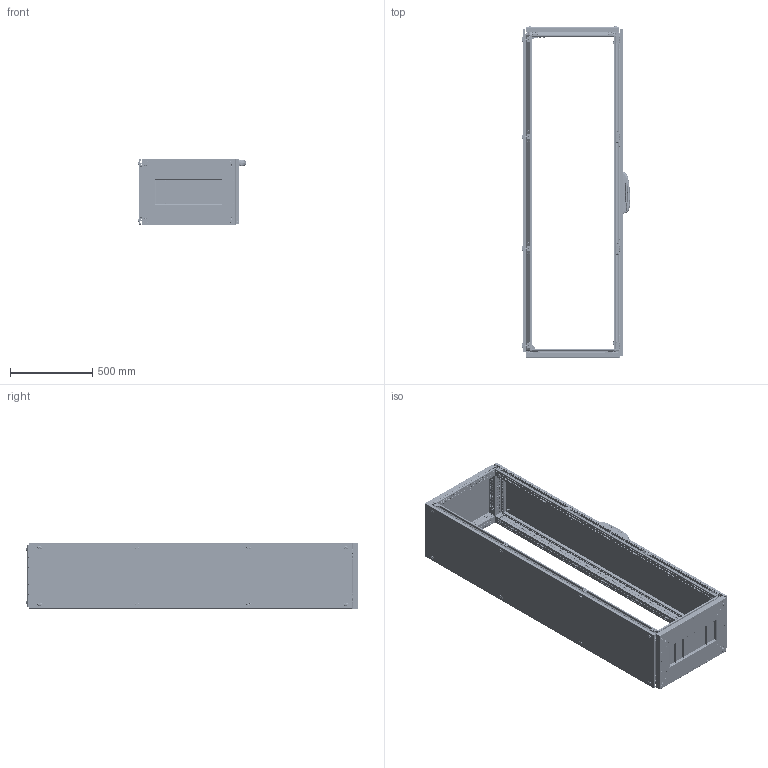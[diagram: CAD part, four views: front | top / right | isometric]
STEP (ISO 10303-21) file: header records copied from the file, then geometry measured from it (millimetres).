
FILE_DESCRIPTION (( 'STEP AP214' ), '1' );
FILE_NAME ('T200406S - 2000 H X 400 W X 600 D.STEP', '2026-09-11T14:13:34', ( '' ), ( '' ), 'SwSTEP 2.0', 'SolidWorks 2025', '' );
FILE_SCHEMA (( 'AUTOMOTIVE_DESIGN' ));
Length unit declared in the file: millimetre
Products named in the file (96): M8 KAFES SOMUN_m8; Hinge Front Door; Teos-Neo 3mm MOUNTING PLATE_TEOS MP 400x2000; MP 25.0028 TEOS ALT - ÜST KİLİT DİLİ; 03-TABAN SACI U1 04-2012_PP 12.0034 - 400-200; DDENEME5DENEME4AynalamaTEOS Kilit Çubuk Dili-1; TEOS FRAME_600; DDENEME5DENEME4TEOS Kilit Alt Çubuk Montaj_2000H; L CORNER SUPPORT; PM 25.0042 HINGE BRACKET WITH CAGE NUT TOP - MIDDLE; Teos-Neo Mounting Plate Right Bracket Mounting_Standart Pozisyon; Teos - Neo Mounting Plate - 3 mm_400x2000; MP 11.0195 Mounting Plate M8 Wedge; Front Name Slat_400; DDENEME5DENEME4TEOS Kilit Alt Çubuk_2000; pan cross head_am1_B18.6.7M - M5 x 0.8 x 10 Type I Cross Recessed PHMS --10N; flat head screw_am_B18.6.7M - M6 x 1.0 x 30 Type I Cross Recessed FHMS --30N; MP 14.0007 M6 PLASTİK HAVSA; MP 25.0029 TEOS ORTA KİLİT DİLİ; PM 25.0041 HINGE BRACKET WITH CAGE NUT TOP - BOTTOM; TEOS TOP COVER_PP 12.0002 400X600; 03-KOSE PUNT_PP 12.0027; DDENEME5DENEME4TEOS Kilit Çubuk Pimi; T200406S -  2000 H X 400 W X 600 D; M5 SQUARE WASHER; M8 Kare Somun_m8; Front Door Plastic Screw Holder; Base width with rivet_PP 12.0018 - 400; MP 14.0006 SEALING GASKET; torque nut 01_isoo_ISO 7040-M6-N; CORNER BRACKET; PB 14.0004 M6 Countersunk Plastic Screw Holder; CORNER BRACKET 2; Teos Rear Panel Dkp 1.5 mm_PP 12.0073 400x2000; TEOS FRAME ASSEMBLY_400x2000x600; DDENEME5DENEME4MP 18.7631 Gövde-Plastik; DDENEME5DENEME4AynalamaTEOS Kilit Çubuk Pimi-1; Crossmember Frontdoor_400x2000; DDENEME5DENEME4MP 18.7631 yddk_tozkapagi; mp aLT DAYAMA_PP 12.0093 - 600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
Assembly tree (322 placements, depth 5):
  T200406S -  2000 H X 400 W X 600 D
    TEOS FRAME ASSEMBLY_400x2000x600
      TEOS FRAME_2000   x4
      TEOS FRAME_600  x4
      TEOS FRAME_400  x4
      L CORNER SUPPORT  x8
      CORNER BRACKET  x15
      CORNER BRACKET 2
      MP 11.0140 TEOS ALUMINIUM CORNER  x8
      M5 SQUARE WASHER  x16
      Riveted Base_701.460-40X60 ALT
        Base width with rivet_PP 12.0018 - 400  x2
        Base depth with rivet_PP 12.0025 - 600  x2
        03-KOSE PUNT_PP 12.0027
        03-KOSE PUNT
        Mirror03-KOSE PUNT  x2
        03-TABAN SACI SURGU_PP 12.0029 - 400  x2
        03-TABAN SACI U1 04-2012_PP 12.0039 - 400-75
        03-TABAN SACI U1 04-2012_PP 12.0034 - 400-200
        mp aLT DAYAMA_PP 12.0093 - 600  x2
      socket button head cap screw_am_B18.3.4M - 8 x 1.25 x 16 SBHCS --N  x53
      pan cross head_am1_B18.6.7M - M5 x 0.8 x 10 Type I Cross Recessed PHMS --10N  x23
      B18.3.5M - 5 x 0.8 x 10 Socket FCHS  -- 10N_B18.3.5M - 5 x 0.8 x 10 Socket FCHS  -- 10N  x16
      PM 25.0039 WITH CAGE NUT TEOS SIDE AND REAR PANEL BRACKET TOP - BOTTOM  x4
        MP 25.0030 TEOS YAN VE ARKA KAPAK BAĞLANTI SACI ALT - ÜST
        M6 KAFES SOMU2015 2025
          kafes somun kafes 2025
          somu 2025
      PM 25.0040 WITH CAGE NUT TEOS SIDE AND REAR PANEL BRACKET - MIDDLE  x4
        MP 25.0031 TEOS YAN VE ARKA KAPAK BAĞLANTI SACI ORTA
        M6 KAFES SOMU2015 2025
          kafes somun kafes 2025
          somu 2025
      PM 25.0037 WITH CAGE NUT TEOS LOCK BRACKET TOP-BOTTOM  x2
        MP 25.0028 TEOS ALT - ÜST KİLİT DİLİ
        M6 KAFES SOMU2015 2025
          kafes somun kafes 2025
          somu 2025
      PM 25.0038 WITH CAGE NUT TEOS LOCK BRACKET TOP-MIDDLE  x2
        MP 25.0029 TEOS ORTA KİLİT DİLİ
        M6 KAFES SOMU2015 2025
          kafes somun kafes 2025
          somu 2025
      PM 25.0041 HINGE BRACKET WITH CAGE NUT TOP - BOTTOM  x2
        MP 25.0026 TEOS MENTEŞE ALT - ÜST
        M6 KAFES SOMU
          kafes somun kafes
          somu
      PM 25.0042 HINGE BRACKET WITH CAGE NUT TOP - MIDDLE  x2
        MP 25.0027 TEOS MENTEŞE ORTA
        M6 KAFES SOMU2015 2025
          kafes somun kafes 2025
          somu 2025
    TEOS TOP COVER_PP 12.0002 400X600
    TEOS FRONT DOOR_400x2000
      Front Door 2 mm DKP_PP 17.1093 400x2000
      Front Door Plastic Screw Holder  x4
      Crossmember Frontdoor_400x2000
        ENINE DELIKLI PROFIL_400  x2
        BOYUNA DELIKLI PROFIL_2000  x2
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Bounding box: 658.18 x 2018.08 x 401.56 mm (x, y, z)
Volume: 11984139.4 mm3; surface area: 11933319.5 mm2
Topology: 346 solids, 386 shells, 44706 faces, 119480 edges, 75121 vertices
Faces by surface type: plane 27221, cylinder 12604, bspline 2261, cone 1096, torus 901, sphere 623
Entity records: 602426 total; most frequent: CARTESIAN_POINT 283054, ORIENTED_EDGE 67696, DIRECTION 62285, EDGE_CURVE 33848, VERTEX_POINT 21556, AXIS2_PLACEMENT_3D 20800, VECTOR 20685, LINE 20685
